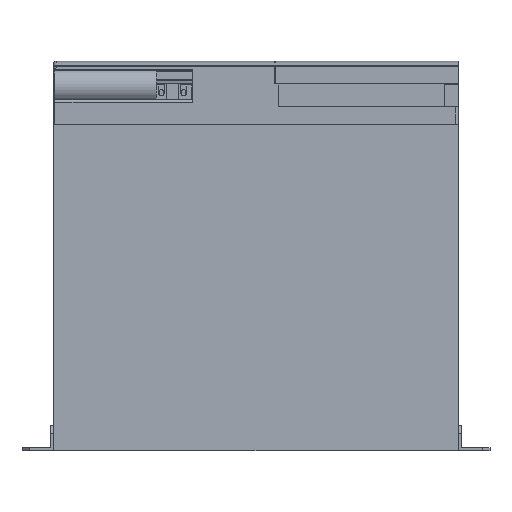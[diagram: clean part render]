
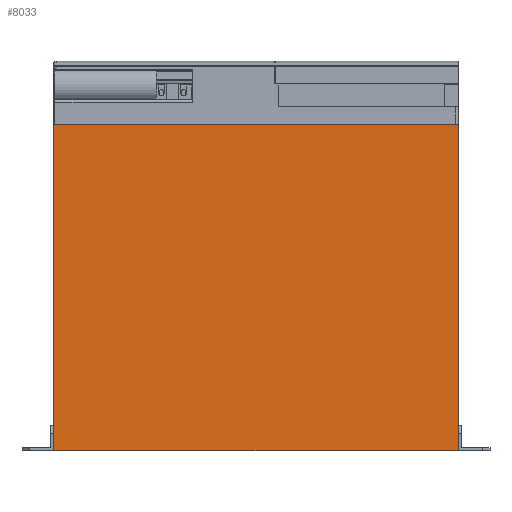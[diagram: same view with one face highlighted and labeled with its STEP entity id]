
A CAD part, left-side view. The second image highlights one B-rep face of the part: STEP entity #8033.
In plain terms, the highlighted planar face has unit normal (-1, 0, 0).
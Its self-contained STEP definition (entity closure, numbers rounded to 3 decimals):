
#8033=ADVANCED_FACE('',(#14765),#14764,.F.);
#14764=PLANE('',#53776);
#14765=FACE_OUTER_BOUND('',#53777,.T.);
#53773=CARTESIAN_POINT('',(-7.1,-169.5,-4.9));
#53774=DIRECTION('',(1.,0.,0.));
#53775=DIRECTION('',(0.,0.,-1.));
#53776=AXIS2_PLACEMENT_3D('',#53773,#53774,#53775);
#53777=EDGE_LOOP('',(#74662,#74663,#74664,#74665));
#74662=ORIENTED_EDGE('',*,*,#95682,.T.);
#74663=ORIENTED_EDGE('',*,*,#95685,.F.);
#74664=ORIENTED_EDGE('',*,*,#95683,.F.);
#74665=ORIENTED_EDGE('',*,*,#95663,.T.);
#95663=EDGE_CURVE('',#109474,#109467,#109475,.T.);
#95682=EDGE_CURVE('',#109467,#109591,#109598,.T.);
#95683=EDGE_CURVE('',#109474,#109604,#109605,.T.);
#95685=EDGE_CURVE('',#109604,#109591,#109617,.T.);
#109467=VERTEX_POINT('',#181228);
#109474=VERTEX_POINT('',#181232);
#109475=LINE('',#181233,#181234);
#109591=VERTEX_POINT('',#181295);
#109598=LINE('',#181299,#181300);
#109604=VERTEX_POINT('',#181302);
#109605=LINE('',#181303,#181304);
#109617=LINE('',#181309,#181310);
#181228=CARTESIAN_POINT('',(-7.1,0.5,-143.9));
#181232=CARTESIAN_POINT('',(-7.1,0.5,-14.9));
#181233=CARTESIAN_POINT('',(-7.1,0.5,-14.9));
#181234=VECTOR('',#181235,129.);
#181235=DIRECTION('',(0.,0.,-1.));
#181295=CARTESIAN_POINT('',(-7.1,-159.5,-143.9));
#181299=CARTESIAN_POINT('',(-7.1,0.5,-143.9));
#181300=VECTOR('',#181301,160.);
#181301=DIRECTION('',(0.,-1.,0.));
#181302=CARTESIAN_POINT('',(-7.1,-159.5,-14.9));
#181303=CARTESIAN_POINT('',(-7.1,0.5,-14.9));
#181304=VECTOR('',#181305,160.);
#181305=DIRECTION('',(0.,-1.,0.));
#181309=CARTESIAN_POINT('',(-7.1,-159.5,-14.9));
#181310=VECTOR('',#181311,129.);
#181311=DIRECTION('',(0.,0.,-1.));
